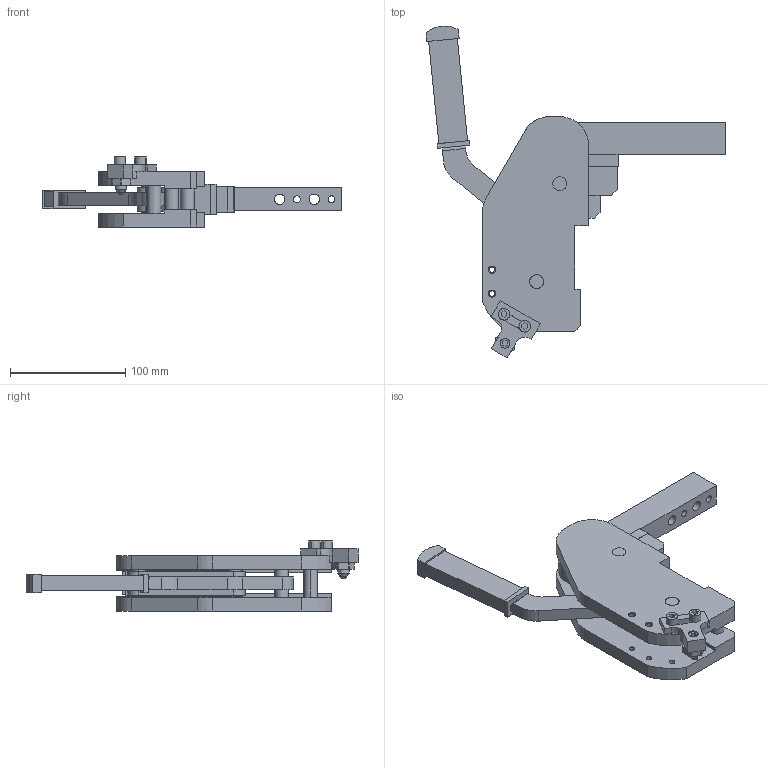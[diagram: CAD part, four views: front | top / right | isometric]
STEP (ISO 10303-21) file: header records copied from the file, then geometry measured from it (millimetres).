
FILE_DESCRIPTION (( 'STEP AP214' ), '1' );
FILE_NAME ('mc_v2c_ld.STEP', '2014-03-17T09:15:29', ( 'vep' ), ( 'TOSHIBA' ), 'SwSTEP 2.0', 'SolidWorks 2013', '' );
FILE_SCHEMA (( 'AUTOMOTIVE_DESIGN' ));
Length unit declared in the file: millimetre
Products named in the file (7): mc_v2c_ld; gruppo_montante_mc; leva_mc; biella_leva_mc_; biella_mc; staffa_fermo_leva_mc; leva_v2c_o2c_mc
Assembly tree (7 placements, depth 2):
  mc_v2c_ld
    gruppo_montante_mc
    leva_mc
    biella_leva_mc_
    biella_mc  x2
    staffa_fermo_leva_mc
    leva_v2c_o2c_mc
Bounding box: 259.82 x 287.68 x 60.7 mm (x, y, z)
Volume: 594057.9 mm3; surface area: 146171.3 mm2
Topology: 7 solids, 7 shells, 388 faces, 985 edges, 621 vertices
Faces by surface type: plane 177, cylinder 151, cone 58, sphere 2
Entity records: 12188 total; most frequent: DIRECTION 2022, CARTESIAN_POINT 1900, ORIENTED_EDGE 1844, EDGE_CURVE 922, AXIS2_PLACEMENT_3D 717, VERTEX_POINT 595, VECTOR 588, LINE 588
